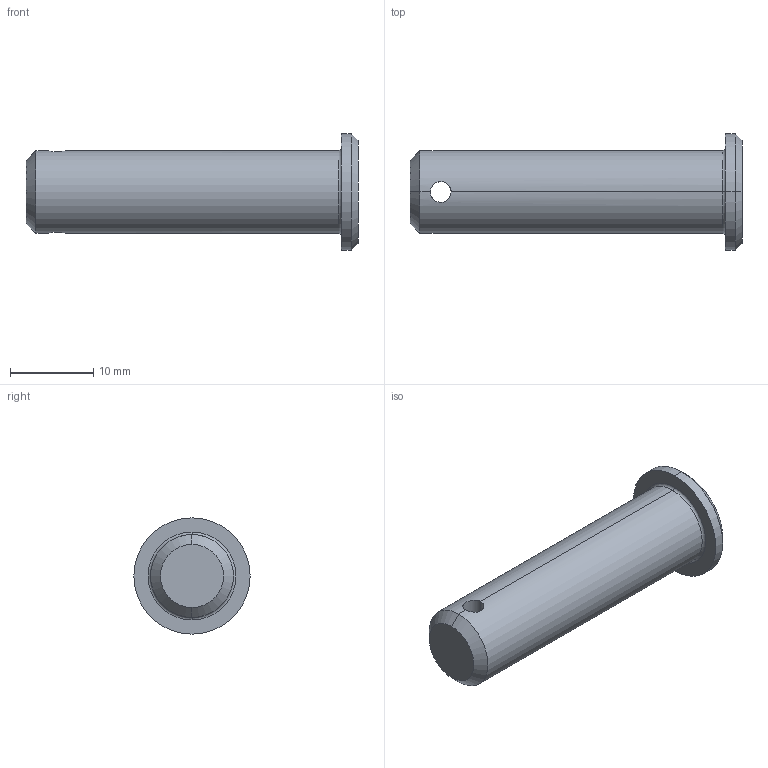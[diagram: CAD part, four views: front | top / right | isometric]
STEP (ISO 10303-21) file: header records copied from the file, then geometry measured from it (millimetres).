
FILE_DESCRIPTION (( 'STEP AP203' ), '1' );
FILE_NAME ('Wiberger-sms2360_10x38.step', '2012-10-09T08:57:01', ( 'Magnus' ), ( 'Wiberger' ), 'SwSTEP 2.0', 'SolidWorks 2011', '' );
FILE_SCHEMA (( 'CONFIG_CONTROL_DESIGN' ));
Length unit declared in the file: millimetre
Products named in the file (1): Wiberger-sms2360_10x38
Bounding box: 40 x 14 x 14 mm (x, y, z)
Volume: 3210 mm3; surface area: 1607.6 mm2
Topology: 1 solids, 1 shells, 15 faces, 32 edges, 18 vertices
Faces by surface type: cylinder 6, cone 4, plane 3, torus 2
Entity records: 555 total; most frequent: CARTESIAN_POINT 146, DIRECTION 76, ORIENTED_EDGE 64, EDGE_CURVE 32, AXIS2_PLACEMENT_3D 32, VERTEX_POINT 18, EDGE_LOOP 16, CIRCLE 16
